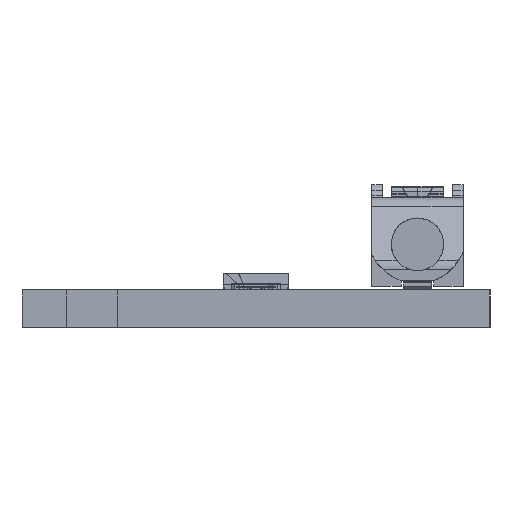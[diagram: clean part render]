
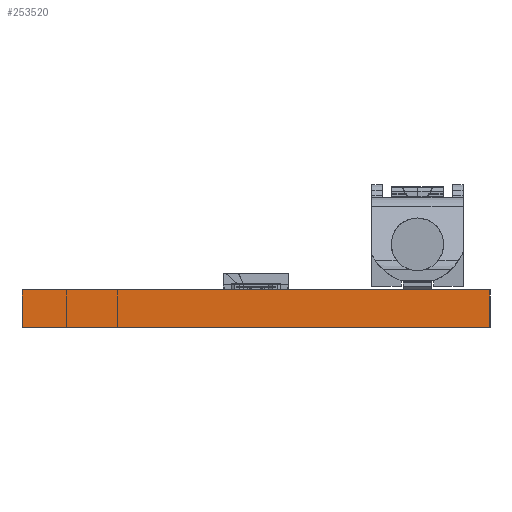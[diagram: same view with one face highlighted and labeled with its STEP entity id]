
A CAD part, left-side view. The second image highlights one B-rep face of the part: STEP entity #253520.
In plain terms, the highlighted planar face has unit normal (-1, 0, 0).
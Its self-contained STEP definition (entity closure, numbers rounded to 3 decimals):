
#222390=CARTESIAN_POINT('',(-83.975,42.357,0.));
#222400=DIRECTION('',(0.,1.,0.));
#222410=VECTOR('',#222400,0.039);
#222420=LINE('',#222390,#222410);
#222430=CARTESIAN_POINT('',(-83.975,42.357,0.));
#222440=VERTEX_POINT('',#222430);
#222450=CARTESIAN_POINT('',(-83.975,62.357,0.));
#222460=VERTEX_POINT('',#222450);
#222470=EDGE_CURVE('',#222440,#222460,#222420,.T.);
#231840=CARTESIAN_POINT('',(-83.975,42.357,-1.6));
#231850=VERTEX_POINT('',#231840);
#235960=CARTESIAN_POINT('',(-83.975,62.357,-1.6));
#235970=VERTEX_POINT('',#235960);
#236000=CARTESIAN_POINT('',(-83.975,42.357,-1.6));
#236010=DIRECTION('',(0.,1.,0.));
#236020=VECTOR('',#236010,0.039);
#236030=LINE('',#236000,#236020);
#236040=EDGE_CURVE('',#231850,#235970,#236030,.T.);
#241250=CARTESIAN_POINT('',(-83.975,42.357,0.));
#241260=DIRECTION('',(0.,0.,-1.));
#241270=VECTOR('',#241260,1.);
#241280=LINE('',#241250,#241270);
#241290=EDGE_CURVE('',#222440,#231850,#241280,.T.);
#253230=CARTESIAN_POINT('',(-83.975,62.357,0.));
#253240=DIRECTION('',(0.,0.,-1.));
#253250=VECTOR('',#253240,1.);
#253260=LINE('',#253230,#253250);
#253270=EDGE_CURVE('',#222460,#235970,#253260,.T.);
#253410=CARTESIAN_POINT('',(-83.975,42.357,0.));
#253420=DIRECTION('',(1.,0.,0.));
#253430=DIRECTION('',(0.,-1.,0.));
#253440=AXIS2_PLACEMENT_3D('',#253410,#253420,#253430);
#253450=PLANE('',#253440);
#253460=ORIENTED_EDGE('',*,*,#222470,.T.);
#253470=ORIENTED_EDGE('',*,*,#241290,.F.);
#253480=ORIENTED_EDGE('',*,*,#236040,.F.);
#253490=ORIENTED_EDGE('',*,*,#253270,.T.);
#253500=EDGE_LOOP('',(#253490,#253480,#253470,#253460));
#253510=FACE_OUTER_BOUND('',#253500,.T.);
#253520=ADVANCED_FACE('',(#253510),#253450,.F.);
